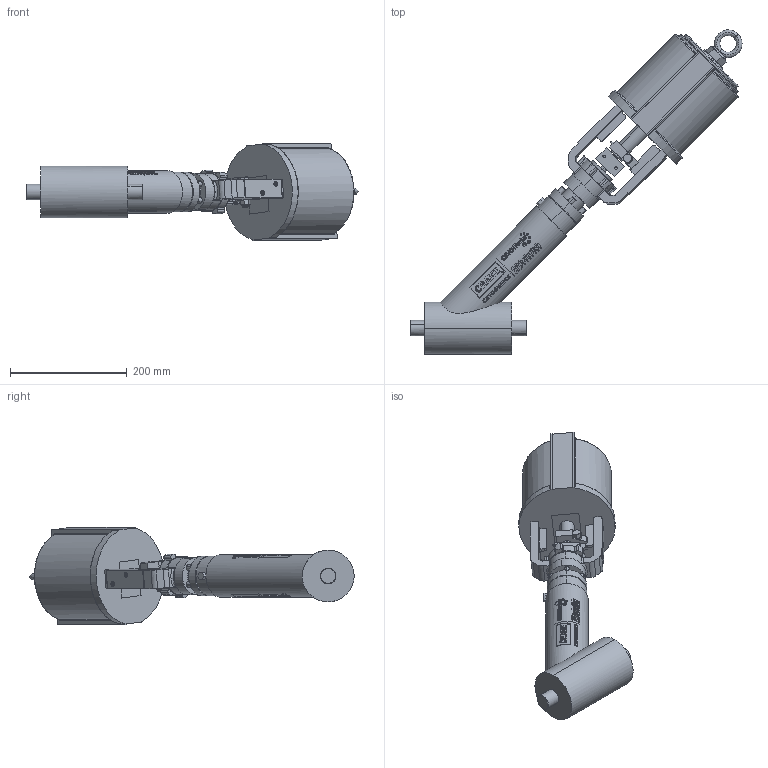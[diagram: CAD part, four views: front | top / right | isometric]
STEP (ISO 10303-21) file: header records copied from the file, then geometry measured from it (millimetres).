
FILE_DESCRIPTION (( 'STEP AP203' ), '1' );
FILE_NAME ('0.75IN Y-PATTERN PNEUMATIC CRANE BELLOWS SEAL VALVE.step', '2025-12-17T20:05:19', ( '' ), ( '' ), 'SwSTEP 2.0', 'SolidWorks 2023', '' );
FILE_SCHEMA (( 'CONFIG_CONTROL_DESIGN' ));
Length unit declared in the file: inch
Products named in the file (1): 0.75IN Y-PATTERN PNEUMATIC CRANE BELLOWS SEAL VALVE
Bounding box: 569.16 x 555.76 x 166.73 mm (x, y, z)
Surface area: 337934 mm2 (no closed solid volume)
Topology: 0 solids, 3 shells, 2312 faces, 6422 edges, 4224 vertices
Faces by surface type: plane 972, cylinder 797, bspline 421, torus 70, cone 46, sphere 6
Full cylindrical faces by diameter (mm): 0.896 x2, 0.982 x2, 1.067 x2, 1.223 x2, 1.381 x2, 1.78 x2, 1.842 x2, 2.045 x2, 2.179 x2, 2.284 x2, 2.405 x2, 2.744 x2, 3.706 x2, 4.578 x2, 5.539 x2, 6.45 x2, 73.025 x1
Entity records: 485746 total; most frequent: CARTESIAN_POINT 438015, ORIENTED_EDGE 12722, EDGE_CURVE 6363, DIRECTION 5980, VERTEX_POINT 4224, B_SPLINE_CURVE_WITH_KNOTS 3244, EDGE_LOOP 2592, FACE_OUTER_BOUND 2361
